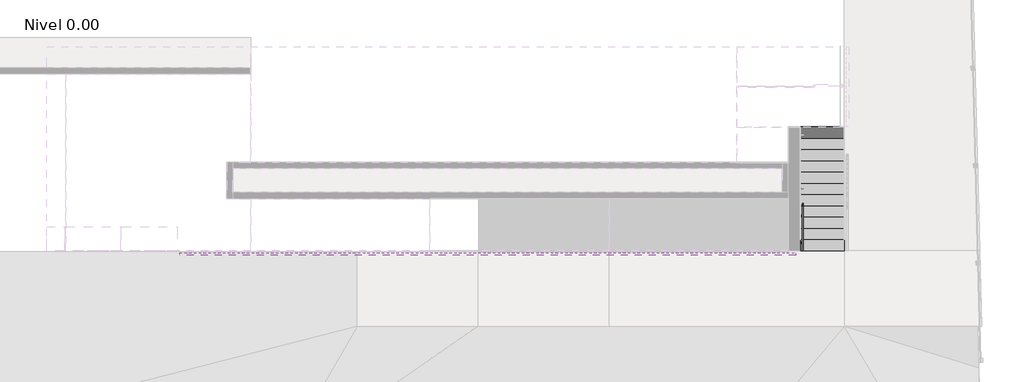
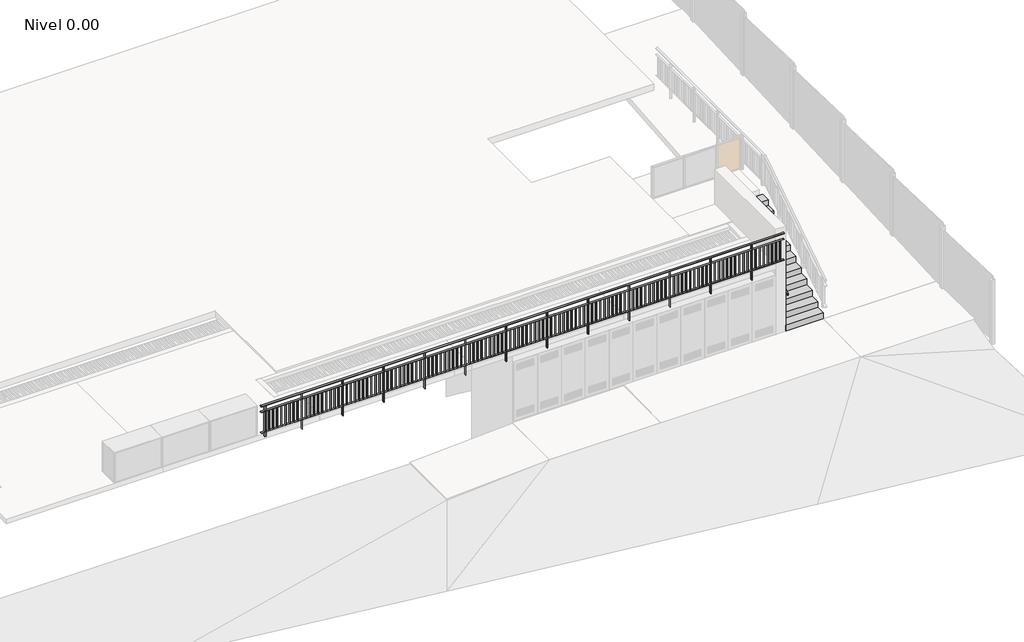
# One storey, part 5 of 10: 3 proxies, 2 railings, 1 stair flight.
"""IFC4 building model written with IfcOpenShell, lengths in millimetres."""

from ifc_helpers import new_model, si_unit, point, frame, frame_2d, origin, place, context, project, spatial, polyline, circle_curve, ellipse_curve, trimmed, segment, composite_curve, outline, extrude, faceted_brep, transform, mapped, element, save
from ifc_brep_helpers import plane_surface, cylinder_surface, advanced_brep
from components import m_support_metal_circular_m_support_metal_circular_0da74429

model = new_model("IFC4")

# Units and contexts
model_context = context("Model", 3, world=origin())
ifc_project = project(units=[si_unit("LENGTHUNIT", "METRE", prefix="MILLI")], contexts=[model_context])

# Site, building, storey
site = spatial("IfcSite", under=ifc_project)
building = spatial("IfcBuilding", under=site)
storey = spatial("IfcBuildingStorey", under=building, Name="Nivel 0.00", Elevation=0.0)

# Proxies
placement = place(None, origin())
m_support_metal_circular_m_support_metal_circular_shape = m_support_metal_circular_m_support_metal_circular_0da74429(model_context)
element("IfcBuildingElementProxy", 1, Name="M_Support - Metal - Circular : M_Support - Metal - Circular", ObjectType="M_Support - Metal - Circular : M_Support - Metal - Circular", at=placement, inside=storey, context=model_context, shape_type="MappedRepresentation", body=[
    mapped(m_support_metal_circular_m_support_metal_circular_shape, transform((16970.5253342, -15451.2141003, 569.975585), x_axis=(0.0, 1.0, 0.0), y_axis=(-1.0, 0.0, 0.0), z_axis=(0.0, 0.0, 1.0))),
])
element("IfcBuildingElementProxy", 2, Name="M_Support - Metal - Circular : M_Support - Metal - Circular", ObjectType="M_Support - Metal - Circular : M_Support - Metal - Circular", at=placement, inside=storey, context=model_context, shape_type="MappedRepresentation", body=[
    mapped(m_support_metal_circular_m_support_metal_circular_shape, transform((16970.5253342, -14780.0943676, 1005.4044592), x_axis=(0.0, 1.0, 0.0), y_axis=(-1.0, 0.0, 0.0), z_axis=(0.0, 0.0, 1.0))),
])
element("IfcBuildingElementProxy", 3, Name="M_Support - Metal - Circular : M_Support - Metal - Circular", ObjectType="M_Support - Metal - Circular : M_Support - Metal - Circular", at=placement, inside=storey, context=model_context, shape_type="MappedRepresentation", body=[
    mapped(m_support_metal_circular_m_support_metal_circular_shape, transform((16970.5253342, -14108.974635, 1440.8333333), x_axis=(0.0, 1.0, 0.0), y_axis=(-1.0, 0.0, 0.0), z_axis=(0.0, 0.0, 1.0))),
])

# Railings
element("IfcRailing", 4, ObjectType="BARANDA_RAMPA_1000mm", at=placement, inside=storey, context=model_context, shape_type="SweptSolid", body=[
    extrude(outline(composite_curve([segment(trimmed(circle_curve(frame_2d((-15733.079504, 2475.0)), 25.0), [point((-15758.079504, 2475.0))], [point((-15708.079504, 2475.0))], False, "CARTESIAN"), True, "CONTINUOUS"), segment(trimmed(circle_curve(frame_2d((-15733.079504, 2475.0)), 25.0), [point((-15708.079504, 2475.0))], [point((-15758.079504, 2475.0))], False, "CARTESIAN"), True, "CONTINUOUS")], self_intersect=False)), frame((1457.4790965, 0.0, 0.0), z_axis=(1.0, 0.0, 0.0), x_axis=(0.0, 1.0, 0.0)), (0.0, 0.0, 1.0), 15340.0),
    extrude(outline(polyline([(1457.4790965, -15753.079504), (1457.4790965, -15703.079504), (16797.4790965, -15703.079504), (16797.4790965, -15753.079504), (1457.4790965, -15753.079504)])), frame((0.0, 0.0, 2288.0), z_axis=(0.0, 0.0, 1.0), x_axis=(1.0, 0.0, 0.0)), (0.0, 0.0, 1.0), 12.0),
    extrude(outline(polyline([(1457.4790965, -15753.079504), (1457.4790965, -15703.079504), (16797.4790965, -15703.079504), (16797.4790965, -15753.079504), (1457.4790965, -15753.079504)])), frame((0.0, 0.0, 1638.0), z_axis=(0.0, 0.0, 1.0), x_axis=(1.0, 0.0, 0.0)), (0.0, 0.0, 1.0), 12.0),
    extrude(outline(polyline([(16691.4790965, -15753.079504), (16691.4790965, -15703.079504), (16703.4790965, -15703.079504), (16703.4790965, -15753.079504), (16691.4790965, -15753.079504)])), frame((0.0, 0.0, 1650.0), z_axis=(0.0, 0.0, 1.0), x_axis=(1.0, 0.0, 0.0)), (0.0, 0.0, 1.0), 638.0),
    extrude(outline(polyline([(16571.4790965, -15753.079504), (16571.4790965, -15703.079504), (16583.4790965, -15703.079504), (16583.4790965, -15753.079504), (16571.4790965, -15753.079504)])), frame((0.0, 0.0, 1650.0), z_axis=(0.0, 0.0, 1.0), x_axis=(1.0, 0.0, 0.0)), (0.0, 0.0, 1.0), 638.0),
    extrude(outline(polyline([(16451.4790965, -15753.079504), (16451.4790965, -15703.079504), (16463.4790965, -15703.079504), (16463.4790965, -15753.079504), (16451.4790965, -15753.079504)])), frame((0.0, 0.0, 1650.0), z_axis=(0.0, 0.0, 1.0), x_axis=(1.0, 0.0, 0.0)), (0.0, 0.0, 1.0), 638.0),
    extrude(outline(polyline([(16331.4790965, -15753.079504), (16331.4790965, -15703.079504), (16343.4790965, -15703.079504), (16343.4790965, -15753.079504), (16331.4790965, -15753.079504)])), frame((0.0, 0.0, 1650.0), z_axis=(0.0, 0.0, 1.0), x_axis=(1.0, 0.0, 0.0)), (0.0, 0.0, 1.0), 638.0),
    extrude(outline(polyline([(16211.4790965, -15753.079504), (16211.4790965, -15703.079504), (16223.4790965, -15703.079504), (16223.4790965, -15753.079504), (16211.4790965, -15753.079504)])), frame((0.0, 0.0, 1650.0), z_axis=(0.0, 0.0, 1.0), x_axis=(1.0, 0.0, 0.0)), (0.0, 0.0, 1.0), 638.0),
    extrude(outline(polyline([(16091.4790965, -15753.079504), (16091.4790965, -15703.079504), (16103.4790965, -15703.079504), (16103.4790965, -15753.079504), (16091.4790965, -15753.079504)])), frame((0.0, 0.0, 1650.0), z_axis=(0.0, 0.0, 1.0), x_axis=(1.0, 0.0, 0.0)), (0.0, 0.0, 1.0), 638.0),
    extrude(outline(polyline([(15971.4790965, -15753.079504), (15971.4790965, -15703.079504), (15983.4790965, -15703.079504), (15983.4790965, -15753.079504), (15971.4790965, -15753.079504)])), frame((0.0, 0.0, 1650.0), z_axis=(0.0, 0.0, 1.0), x_axis=(1.0, 0.0, 0.0)), (0.0, 0.0, 1.0), 638.0),
    extrude(outline(polyline([(15851.4790965, -15753.079504), (15851.4790965, -15703.079504), (15863.4790965, -15703.079504), (15863.4790965, -15753.079504), (15851.4790965, -15753.079504)])), frame((0.0, 0.0, 1350.0), z_axis=(0.0, 0.0, 1.0), x_axis=(1.0, 0.0, 0.0)), (0.0, 0.0, 1.0), 1100.0),
    extrude(outline(polyline([(15731.4790965, -15753.079504), (15731.4790965, -15703.079504), (15743.4790965, -15703.079504), (15743.4790965, -15753.079504), (15731.4790965, -15753.079504)])), frame((0.0, 0.0, 1650.0), z_axis=(0.0, 0.0, 1.0), x_axis=(1.0, 0.0, 0.0)), (0.0, 0.0, 1.0), 638.0),
    extrude(outline(polyline([(15611.4790965, -15753.079504), (15611.4790965, -15703.079504), (15623.4790965, -15703.079504), (15623.4790965, -15753.079504), (15611.4790965, -15753.079504)])), frame((0.0, 0.0, 1650.0), z_axis=(0.0, 0.0, 1.0), x_axis=(1.0, 0.0, 0.0)), (0.0, 0.0, 1.0), 638.0),
    extrude(outline(polyline([(15491.4790965, -15753.079504), (15491.4790965, -15703.079504), (15503.4790965, -15703.079504), (15503.4790965, -15753.079504), (15491.4790965, -15753.079504)])), frame((0.0, 0.0, 1650.0), z_axis=(0.0, 0.0, 1.0), x_axis=(1.0, 0.0, 0.0)), (0.0, 0.0, 1.0), 638.0),
    extrude(outline(polyline([(15371.4790965, -15753.079504), (15371.4790965, -15703.079504), (15383.4790965, -15703.079504), (15383.4790965, -15753.079504), (15371.4790965, -15753.079504)])), frame((0.0, 0.0, 1650.0), z_axis=(0.0, 0.0, 1.0), x_axis=(1.0, 0.0, 0.0)), (0.0, 0.0, 1.0), 638.0),
    extrude(outline(polyline([(15251.4790965, -15753.079504), (15251.4790965, -15703.079504), (15263.4790965, -15703.079504), (15263.4790965, -15753.079504), (15251.4790965, -15753.079504)])), frame((0.0, 0.0, 1650.0), z_axis=(0.0, 0.0, 1.0), x_axis=(1.0, 0.0, 0.0)), (0.0, 0.0, 1.0), 638.0),
    extrude(outline(polyline([(15131.4790965, -15753.079504), (15131.4790965, -15703.079504), (15143.4790965, -15703.079504), (15143.4790965, -15753.079504), (15131.4790965, -15753.079504)])), frame((0.0, 0.0, 1650.0), z_axis=(0.0, 0.0, 1.0), x_axis=(1.0, 0.0, 0.0)), (0.0, 0.0, 1.0), 638.0),
    extrude(outline(polyline([(15011.4790965, -15753.079504), (15011.4790965, -15703.079504), (15023.4790965, -15703.079504), (15023.4790965, -15753.079504), (15011.4790965, -15753.079504)])), frame((0.0, 0.0, 1650.0), z_axis=(0.0, 0.0, 1.0), x_axis=(1.0, 0.0, 0.0)), (0.0, 0.0, 1.0), 638.0),
    extrude(outline(polyline([(14891.4790965, -15753.079504), (14891.4790965, -15703.079504), (14903.4790965, -15703.079504), (14903.4790965, -15753.079504), (14891.4790965, -15753.079504)])), frame((0.0, 0.0, 1650.0), z_axis=(0.0, 0.0, 1.0), x_axis=(1.0, 0.0, 0.0)), (0.0, 0.0, 1.0), 638.0),
    extrude(outline(polyline([(14771.4790965, -15753.079504), (14771.4790965, -15703.079504), (14783.4790965, -15703.079504), (14783.4790965, -15753.079504), (14771.4790965, -15753.079504)])), frame((0.0, 0.0, 1650.0), z_axis=(0.0, 0.0, 1.0), x_axis=(1.0, 0.0, 0.0)), (0.0, 0.0, 1.0), 638.0),
    extrude(outline(polyline([(14651.4790965, -15753.079504), (14651.4790965, -15703.079504), (14663.4790965, -15703.079504), (14663.4790965, -15753.079504), (14651.4790965, -15753.079504)])), frame((0.0, 0.0, 1350.0), z_axis=(0.0, 0.0, 1.0), x_axis=(1.0, 0.0, 0.0)), (0.0, 0.0, 1.0), 1100.0),
    extrude(outline(polyline([(14531.4790965, -15753.079504), (14531.4790965, -15703.079504), (14543.4790965, -15703.079504), (14543.4790965, -15753.079504), (14531.4790965, -15753.079504)])), frame((0.0, 0.0, 1650.0), z_axis=(0.0, 0.0, 1.0), x_axis=(1.0, 0.0, 0.0)), (0.0, 0.0, 1.0), 638.0),
    extrude(outline(polyline([(14411.4790965, -15753.079504), (14411.4790965, -15703.079504), (14423.4790965, -15703.079504), (14423.4790965, -15753.079504), (14411.4790965, -15753.079504)])), frame((0.0, 0.0, 1650.0), z_axis=(0.0, 0.0, 1.0), x_axis=(1.0, 0.0, 0.0)), (0.0, 0.0, 1.0), 638.0),
    extrude(outline(polyline([(14291.4790965, -15753.079504), (14291.4790965, -15703.079504), (14303.4790965, -15703.079504), (14303.4790965, -15753.079504), (14291.4790965, -15753.079504)])), frame((0.0, 0.0, 1650.0), z_axis=(0.0, 0.0, 1.0), x_axis=(1.0, 0.0, 0.0)), (0.0, 0.0, 1.0), 638.0),
    extrude(outline(polyline([(14171.4790965, -15753.079504), (14171.4790965, -15703.079504), (14183.4790965, -15703.079504), (14183.4790965, -15753.079504), (14171.4790965, -15753.079504)])), frame((0.0, 0.0, 1650.0), z_axis=(0.0, 0.0, 1.0), x_axis=(1.0, 0.0, 0.0)), (0.0, 0.0, 1.0), 638.0),
    extrude(outline(polyline([(14051.4790965, -15753.079504), (14051.4790965, -15703.079504), (14063.4790965, -15703.079504), (14063.4790965, -15753.079504), (14051.4790965, -15753.079504)])), frame((0.0, 0.0, 1650.0), z_axis=(0.0, 0.0, 1.0), x_axis=(1.0, 0.0, 0.0)), (0.0, 0.0, 1.0), 638.0),
    extrude(outline(polyline([(13931.4790965, -15753.079504), (13931.4790965, -15703.079504), (13943.4790965, -15703.079504), (13943.4790965, -15753.079504), (13931.4790965, -15753.079504)])), frame((0.0, 0.0, 1650.0), z_axis=(0.0, 0.0, 1.0), x_axis=(1.0, 0.0, 0.0)), (0.0, 0.0, 1.0), 638.0),
    extrude(outline(polyline([(13811.4790965, -15753.079504), (13811.4790965, -15703.079504), (13823.4790965, -15703.079504), (13823.4790965, -15753.079504), (13811.4790965, -15753.079504)])), frame((0.0, 0.0, 1650.0), z_axis=(0.0, 0.0, 1.0), x_axis=(1.0, 0.0, 0.0)), (0.0, 0.0, 1.0), 638.0),
    extrude(outline(polyline([(13691.4790965, -15753.079504), (13691.4790965, -15703.079504), (13703.4790965, -15703.079504), (13703.4790965, -15753.079504), (13691.4790965, -15753.079504)])), frame((0.0, 0.0, 1650.0), z_axis=(0.0, 0.0, 1.0), x_axis=(1.0, 0.0, 0.0)), (0.0, 0.0, 1.0), 638.0),
    extrude(outline(polyline([(13571.4790965, -15753.079504), (13571.4790965, -15703.079504), (13583.4790965, -15703.079504), (13583.4790965, -15753.079504), (13571.4790965, -15753.079504)])), frame((0.0, 0.0, 1650.0), z_axis=(0.0, 0.0, 1.0), x_axis=(1.0, 0.0, 0.0)), (0.0, 0.0, 1.0), 638.0),
    extrude(outline(polyline([(13451.4790965, -15753.079504), (13451.4790965, -15703.079504), (13463.4790965, -15703.079504), (13463.4790965, -15753.079504), (13451.4790965, -15753.079504)])), frame((0.0, 0.0, 1350.0), z_axis=(0.0, 0.0, 1.0), x_axis=(1.0, 0.0, 0.0)), (0.0, 0.0, 1.0), 1100.0),
    extrude(outline(polyline([(13331.4790965, -15753.079504), (13331.4790965, -15703.079504), (13343.4790965, -15703.079504), (13343.4790965, -15753.079504), (13331.4790965, -15753.079504)])), frame((0.0, 0.0, 1650.0), z_axis=(0.0, 0.0, 1.0), x_axis=(1.0, 0.0, 0.0)), (0.0, 0.0, 1.0), 638.0),
    extrude(outline(polyline([(13211.4790965, -15753.079504), (13211.4790965, -15703.079504), (13223.4790965, -15703.079504), (13223.4790965, -15753.079504), (13211.4790965, -15753.079504)])), frame((0.0, 0.0, 1650.0), z_axis=(0.0, 0.0, 1.0), x_axis=(1.0, 0.0, 0.0)), (0.0, 0.0, 1.0), 638.0),
    extrude(outline(polyline([(13091.4790965, -15753.079504), (13091.4790965, -15703.079504), (13103.4790965, -15703.079504), (13103.4790965, -15753.079504), (13091.4790965, -15753.079504)])), frame((0.0, 0.0, 1650.0), z_axis=(0.0, 0.0, 1.0), x_axis=(1.0, 0.0, 0.0)), (0.0, 0.0, 1.0), 638.0),
    extrude(outline(polyline([(12971.4790965, -15753.079504), (12971.4790965, -15703.079504), (12983.4790965, -15703.079504), (12983.4790965, -15753.079504), (12971.4790965, -15753.079504)])), frame((0.0, 0.0, 1650.0), z_axis=(0.0, 0.0, 1.0), x_axis=(1.0, 0.0, 0.0)), (0.0, 0.0, 1.0), 638.0),
    extrude(outline(polyline([(12851.4790965, -15753.079504), (12851.4790965, -15703.079504), (12863.4790965, -15703.079504), (12863.4790965, -15753.079504), (12851.4790965, -15753.079504)])), frame((0.0, 0.0, 1650.0), z_axis=(0.0, 0.0, 1.0), x_axis=(1.0, 0.0, 0.0)), (0.0, 0.0, 1.0), 638.0),
    extrude(outline(polyline([(12731.4790965, -15753.079504), (12731.4790965, -15703.079504), (12743.4790965, -15703.079504), (12743.4790965, -15753.079504), (12731.4790965, -15753.079504)])), frame((0.0, 0.0, 1650.0), z_axis=(0.0, 0.0, 1.0), x_axis=(1.0, 0.0, 0.0)), (0.0, 0.0, 1.0), 638.0),
    extrude(outline(polyline([(12611.4790965, -15753.079504), (12611.4790965, -15703.079504), (12623.4790965, -15703.079504), (12623.4790965, -15753.079504), (12611.4790965, -15753.079504)])), frame((0.0, 0.0, 1650.0), z_axis=(0.0, 0.0, 1.0), x_axis=(1.0, 0.0, 0.0)), (0.0, 0.0, 1.0), 638.0),
    extrude(outline(polyline([(12491.4790965, -15753.079504), (12491.4790965, -15703.079504), (12503.4790965, -15703.079504), (12503.4790965, -15753.079504), (12491.4790965, -15753.079504)])), frame((0.0, 0.0, 1650.0), z_axis=(0.0, 0.0, 1.0), x_axis=(1.0, 0.0, 0.0)), (0.0, 0.0, 1.0), 638.0),
    extrude(outline(polyline([(12371.4790965, -15753.079504), (12371.4790965, -15703.079504), (12383.4790965, -15703.079504), (12383.4790965, -15753.079504), (12371.4790965, -15753.079504)])), frame((0.0, 0.0, 1650.0), z_axis=(0.0, 0.0, 1.0), x_axis=(1.0, 0.0, 0.0)), (0.0, 0.0, 1.0), 638.0),
    extrude(outline(polyline([(12251.4790965, -15753.079504), (12251.4790965, -15703.079504), (12263.4790965, -15703.079504), (12263.4790965, -15753.079504), (12251.4790965, -15753.079504)])), frame((0.0, 0.0, 1350.0), z_axis=(0.0, 0.0, 1.0), x_axis=(1.0, 0.0, 0.0)), (0.0, 0.0, 1.0), 1100.0),
    extrude(outline(polyline([(12131.4790965, -15753.079504), (12131.4790965, -15703.079504), (12143.4790965, -15703.079504), (12143.4790965, -15753.079504), (12131.4790965, -15753.079504)])), frame((0.0, 0.0, 1650.0), z_axis=(0.0, 0.0, 1.0), x_axis=(1.0, 0.0, 0.0)), (0.0, 0.0, 1.0), 638.0),
    extrude(outline(polyline([(12011.4790965, -15753.079504), (12011.4790965, -15703.079504), (12023.4790965, -15703.079504), (12023.4790965, -15753.079504), (12011.4790965, -15753.079504)])), frame((0.0, 0.0, 1650.0), z_axis=(0.0, 0.0, 1.0), x_axis=(1.0, 0.0, 0.0)), (0.0, 0.0, 1.0), 638.0),
    extrude(outline(polyline([(11891.4790965, -15753.079504), (11891.4790965, -15703.079504), (11903.4790965, -15703.079504), (11903.4790965, -15753.079504), (11891.4790965, -15753.079504)])), frame((0.0, 0.0, 1650.0), z_axis=(0.0, 0.0, 1.0), x_axis=(1.0, 0.0, 0.0)), (0.0, 0.0, 1.0), 638.0),
    extrude(outline(polyline([(11771.4790965, -15753.079504), (11771.4790965, -15703.079504), (11783.4790965, -15703.079504), (11783.4790965, -15753.079504), (11771.4790965, -15753.079504)])), frame((0.0, 0.0, 1650.0), z_axis=(0.0, 0.0, 1.0), x_axis=(1.0, 0.0, 0.0)), (0.0, 0.0, 1.0), 638.0),
    extrude(outline(polyline([(11651.4790965, -15753.079504), (11651.4790965, -15703.079504), (11663.4790965, -15703.079504), (11663.4790965, -15753.079504), (11651.4790965, -15753.079504)])), frame((0.0, 0.0, 1650.0), z_axis=(0.0, 0.0, 1.0), x_axis=(1.0, 0.0, 0.0)), (0.0, 0.0, 1.0), 638.0),
    extrude(outline(polyline([(11531.4790965, -15753.079504), (11531.4790965, -15703.079504), (11543.4790965, -15703.079504), (11543.4790965, -15753.079504), (11531.4790965, -15753.079504)])), frame((0.0, 0.0, 1650.0), z_axis=(0.0, 0.0, 1.0), x_axis=(1.0, 0.0, 0.0)), (0.0, 0.0, 1.0), 638.0),
    extrude(outline(polyline([(11411.4790965, -15753.079504), (11411.4790965, -15703.079504), (11423.4790965, -15703.079504), (11423.4790965, -15753.079504), (11411.4790965, -15753.079504)])), frame((0.0, 0.0, 1650.0), z_axis=(0.0, 0.0, 1.0), x_axis=(1.0, 0.0, 0.0)), (0.0, 0.0, 1.0), 638.0),
    extrude(outline(polyline([(11291.4790965, -15753.079504), (11291.4790965, -15703.079504), (11303.4790965, -15703.079504), (11303.4790965, -15753.079504), (11291.4790965, -15753.079504)])), frame((0.0, 0.0, 1650.0), z_axis=(0.0, 0.0, 1.0), x_axis=(1.0, 0.0, 0.0)), (0.0, 0.0, 1.0), 638.0),
    extrude(outline(polyline([(11171.4790965, -15753.079504), (11171.4790965, -15703.079504), (11183.4790965, -15703.079504), (11183.4790965, -15753.079504), (11171.4790965, -15753.079504)])), frame((0.0, 0.0, 1650.0), z_axis=(0.0, 0.0, 1.0), x_axis=(1.0, 0.0, 0.0)), (0.0, 0.0, 1.0), 638.0),
    extrude(outline(polyline([(11051.4790965, -15753.079504), (11051.4790965, -15703.079504), (11063.4790965, -15703.079504), (11063.4790965, -15753.079504), (11051.4790965, -15753.079504)])), frame((0.0, 0.0, 1350.0), z_axis=(0.0, 0.0, 1.0), x_axis=(1.0, 0.0, 0.0)), (0.0, 0.0, 1.0), 1100.0),
    extrude(outline(polyline([(10931.4790965, -15753.079504), (10931.4790965, -15703.079504), (10943.4790965, -15703.079504), (10943.4790965, -15753.079504), (10931.4790965, -15753.079504)])), frame((0.0, 0.0, 1650.0), z_axis=(0.0, 0.0, 1.0), x_axis=(1.0, 0.0, 0.0)), (0.0, 0.0, 1.0), 638.0),
    extrude(outline(polyline([(10811.4790965, -15753.079504), (10811.4790965, -15703.079504), (10823.4790965, -15703.079504), (10823.4790965, -15753.079504), (10811.4790965, -15753.079504)])), frame((0.0, 0.0, 1650.0), z_axis=(0.0, 0.0, 1.0), x_axis=(1.0, 0.0, 0.0)), (0.0, 0.0, 1.0), 638.0),
    extrude(outline(polyline([(10691.4790965, -15753.079504), (10691.4790965, -15703.079504), (10703.4790965, -15703.079504), (10703.4790965, -15753.079504), (10691.4790965, -15753.079504)])), frame((0.0, 0.0, 1650.0), z_axis=(0.0, 0.0, 1.0), x_axis=(1.0, 0.0, 0.0)), (0.0, 0.0, 1.0), 638.0),
    extrude(outline(polyline([(10571.4790965, -15753.079504), (10571.4790965, -15703.079504), (10583.4790965, -15703.079504), (10583.4790965, -15753.079504), (10571.4790965, -15753.079504)])), frame((0.0, 0.0, 1650.0), z_axis=(0.0, 0.0, 1.0), x_axis=(1.0, 0.0, 0.0)), (0.0, 0.0, 1.0), 638.0),
    extrude(outline(polyline([(10451.4790965, -15753.079504), (10451.4790965, -15703.079504), (10463.4790965, -15703.079504), (10463.4790965, -15753.079504), (10451.4790965, -15753.079504)])), frame((0.0, 0.0, 1650.0), z_axis=(0.0, 0.0, 1.0), x_axis=(1.0, 0.0, 0.0)), (0.0, 0.0, 1.0), 638.0),
    extrude(outline(polyline([(10331.4790965, -15753.079504), (10331.4790965, -15703.079504), (10343.4790965, -15703.079504), (10343.4790965, -15753.079504), (10331.4790965, -15753.079504)])), frame((0.0, 0.0, 1650.0), z_axis=(0.0, 0.0, 1.0), x_axis=(1.0, 0.0, 0.0)), (0.0, 0.0, 1.0), 638.0),
    extrude(outline(polyline([(10211.4790965, -15753.079504), (10211.4790965, -15703.079504), (10223.4790965, -15703.079504), (10223.4790965, -15753.079504), (10211.4790965, -15753.079504)])), frame((0.0, 0.0, 1650.0), z_axis=(0.0, 0.0, 1.0), x_axis=(1.0, 0.0, 0.0)), (0.0, 0.0, 1.0), 638.0),
    extrude(outline(polyline([(10091.4790965, -15753.079504), (10091.4790965, -15703.079504), (10103.4790965, -15703.079504), (10103.4790965, -15753.079504), (10091.4790965, -15753.079504)])), frame((0.0, 0.0, 1650.0), z_axis=(0.0, 0.0, 1.0), x_axis=(1.0, 0.0, 0.0)), (0.0, 0.0, 1.0), 638.0),
    extrude(outline(polyline([(9971.4790965, -15753.079504), (9971.4790965, -15703.079504), (9983.4790965, -15703.079504), (9983.4790965, -15753.079504), (9971.4790965, -15753.079504)])), frame((0.0, 0.0, 1650.0), z_axis=(0.0, 0.0, 1.0), x_axis=(1.0, 0.0, 0.0)), (0.0, 0.0, 1.0), 638.0),
    extrude(outline(polyline([(9851.4790965, -15753.079504), (9851.4790965, -15703.079504), (9863.4790965, -15703.079504), (9863.4790965, -15753.079504), (9851.4790965, -15753.079504)])), frame((0.0, 0.0, 1350.0), z_axis=(0.0, 0.0, 1.0), x_axis=(1.0, 0.0, 0.0)), (0.0, 0.0, 1.0), 1100.0),
    extrude(outline(polyline([(9731.4790965, -15753.079504), (9731.4790965, -15703.079504), (9743.4790965, -15703.079504), (9743.4790965, -15753.079504), (9731.4790965, -15753.079504)])), frame((0.0, 0.0, 1650.0), z_axis=(0.0, 0.0, 1.0), x_axis=(1.0, 0.0, 0.0)), (0.0, 0.0, 1.0), 638.0),
    extrude(outline(polyline([(9611.4790965, -15753.079504), (9611.4790965, -15703.079504), (9623.4790965, -15703.079504), (9623.4790965, -15753.079504), (9611.4790965, -15753.079504)])), frame((0.0, 0.0, 1650.0), z_axis=(0.0, 0.0, 1.0), x_axis=(1.0, 0.0, 0.0)), (0.0, 0.0, 1.0), 638.0),
    extrude(outline(polyline([(9491.4790965, -15753.079504), (9491.4790965, -15703.079504), (9503.4790965, -15703.079504), (9503.4790965, -15753.079504), (9491.4790965, -15753.079504)])), frame((0.0, 0.0, 1650.0), z_axis=(0.0, 0.0, 1.0), x_axis=(1.0, 0.0, 0.0)), (0.0, 0.0, 1.0), 638.0),
    extrude(outline(polyline([(9371.4790965, -15753.079504), (9371.4790965, -15703.079504), (9383.4790965, -15703.079504), (9383.4790965, -15753.079504), (9371.4790965, -15753.079504)])), frame((0.0, 0.0, 1650.0), z_axis=(0.0, 0.0, 1.0), x_axis=(1.0, 0.0, 0.0)), (0.0, 0.0, 1.0), 638.0),
    extrude(outline(polyline([(9251.4790965, -15753.079504), (9251.4790965, -15703.079504), (9263.4790965, -15703.079504), (9263.4790965, -15753.079504), (9251.4790965, -15753.079504)])), frame((0.0, 0.0, 1650.0), z_axis=(0.0, 0.0, 1.0), x_axis=(1.0, 0.0, 0.0)), (0.0, 0.0, 1.0), 638.0),
    extrude(outline(polyline([(9131.4790965, -15753.079504), (9131.4790965, -15703.079504), (9143.4790965, -15703.079504), (9143.4790965, -15753.079504), (9131.4790965, -15753.079504)])), frame((0.0, 0.0, 1650.0), z_axis=(0.0, 0.0, 1.0), x_axis=(1.0, 0.0, 0.0)), (0.0, 0.0, 1.0), 638.0),
    extrude(outline(polyline([(9011.4790965, -15753.079504), (9011.4790965, -15703.079504), (9023.4790965, -15703.079504), (9023.4790965, -15753.079504), (9011.4790965, -15753.079504)])), frame((0.0, 0.0, 1650.0), z_axis=(0.0, 0.0, 1.0), x_axis=(1.0, 0.0, 0.0)), (0.0, 0.0, 1.0), 638.0),
    extrude(outline(polyline([(8891.4790965, -15753.079504), (8891.4790965, -15703.079504), (8903.4790965, -15703.079504), (8903.4790965, -15753.079504), (8891.4790965, -15753.079504)])), frame((0.0, 0.0, 1650.0), z_axis=(0.0, 0.0, 1.0), x_axis=(1.0, 0.0, 0.0)), (0.0, 0.0, 1.0), 638.0),
    extrude(outline(polyline([(8771.4790965, -15753.079504), (8771.4790965, -15703.079504), (8783.4790965, -15703.079504), (8783.4790965, -15753.079504), (8771.4790965, -15753.079504)])), frame((0.0, 0.0, 1650.0), z_axis=(0.0, 0.0, 1.0), x_axis=(1.0, 0.0, 0.0)), (0.0, 0.0, 1.0), 638.0),
    extrude(outline(polyline([(8651.4790965, -15753.079504), (8651.4790965, -15703.079504), (8663.4790965, -15703.079504), (8663.4790965, -15753.079504), (8651.4790965, -15753.079504)])), frame((0.0, 0.0, 1350.0), z_axis=(0.0, 0.0, 1.0), x_axis=(1.0, 0.0, 0.0)), (0.0, 0.0, 1.0), 1100.0),
    extrude(outline(polyline([(8531.4790965, -15753.079504), (8531.4790965, -15703.079504), (8543.4790965, -15703.079504), (8543.4790965, -15753.079504), (8531.4790965, -15753.079504)])), frame((0.0, 0.0, 1650.0), z_axis=(0.0, 0.0, 1.0), x_axis=(1.0, 0.0, 0.0)), (0.0, 0.0, 1.0), 638.0),
    extrude(outline(polyline([(8411.4790965, -15753.079504), (8411.4790965, -15703.079504), (8423.4790965, -15703.079504), (8423.4790965, -15753.079504), (8411.4790965, -15753.079504)])), frame((0.0, 0.0, 1650.0), z_axis=(0.0, 0.0, 1.0), x_axis=(1.0, 0.0, 0.0)), (0.0, 0.0, 1.0), 638.0),
    extrude(outline(polyline([(8291.4790965, -15753.079504), (8291.4790965, -15703.079504), (8303.4790965, -15703.079504), (8303.4790965, -15753.079504), (8291.4790965, -15753.079504)])), frame((0.0, 0.0, 1650.0), z_axis=(0.0, 0.0, 1.0), x_axis=(1.0, 0.0, 0.0)), (0.0, 0.0, 1.0), 638.0),
    extrude(outline(polyline([(8171.4790965, -15753.079504), (8171.4790965, -15703.079504), (8183.4790965, -15703.079504), (8183.4790965, -15753.079504), (8171.4790965, -15753.079504)])), frame((0.0, 0.0, 1650.0), z_axis=(0.0, 0.0, 1.0), x_axis=(1.0, 0.0, 0.0)), (0.0, 0.0, 1.0), 638.0),
    extrude(outline(polyline([(8051.4790965, -15753.079504), (8051.4790965, -15703.079504), (8063.4790965, -15703.079504), (8063.4790965, -15753.079504), (8051.4790965, -15753.079504)])), frame((0.0, 0.0, 1650.0), z_axis=(0.0, 0.0, 1.0), x_axis=(1.0, 0.0, 0.0)), (0.0, 0.0, 1.0), 638.0),
    extrude(outline(polyline([(7931.4790965, -15753.079504), (7931.4790965, -15703.079504), (7943.4790965, -15703.079504), (7943.4790965, -15753.079504), (7931.4790965, -15753.079504)])), frame((0.0, 0.0, 1650.0), z_axis=(0.0, 0.0, 1.0), x_axis=(1.0, 0.0, 0.0)), (0.0, 0.0, 1.0), 638.0),
    extrude(outline(polyline([(7811.4790965, -15753.079504), (7811.4790965, -15703.079504), (7823.4790965, -15703.079504), (7823.4790965, -15753.079504), (7811.4790965, -15753.079504)])), frame((0.0, 0.0, 1650.0), z_axis=(0.0, 0.0, 1.0), x_axis=(1.0, 0.0, 0.0)), (0.0, 0.0, 1.0), 638.0),
    extrude(outline(polyline([(7691.4790965, -15753.079504), (7691.4790965, -15703.079504), (7703.4790965, -15703.079504), (7703.4790965, -15753.079504), (7691.4790965, -15753.079504)])), frame((0.0, 0.0, 1650.0), z_axis=(0.0, 0.0, 1.0), x_axis=(1.0, 0.0, 0.0)), (0.0, 0.0, 1.0), 638.0),
    extrude(outline(polyline([(7571.4790965, -15753.079504), (7571.4790965, -15703.079504), (7583.4790965, -15703.079504), (7583.4790965, -15753.079504), (7571.4790965, -15753.079504)])), frame((0.0, 0.0, 1650.0), z_axis=(0.0, 0.0, 1.0), x_axis=(1.0, 0.0, 0.0)), (0.0, 0.0, 1.0), 638.0),
    extrude(outline(polyline([(7451.4790965, -15753.079504), (7451.4790965, -15703.079504), (7463.4790965, -15703.079504), (7463.4790965, -15753.079504), (7451.4790965, -15753.079504)])), frame((0.0, 0.0, 1350.0), z_axis=(0.0, 0.0, 1.0), x_axis=(1.0, 0.0, 0.0)), (0.0, 0.0, 1.0), 1100.0),
    extrude(outline(polyline([(7331.4790965, -15753.079504), (7331.4790965, -15703.079504), (7343.4790965, -15703.079504), (7343.4790965, -15753.079504), (7331.4790965, -15753.079504)])), frame((0.0, 0.0, 1650.0), z_axis=(0.0, 0.0, 1.0), x_axis=(1.0, 0.0, 0.0)), (0.0, 0.0, 1.0), 638.0),
    extrude(outline(polyline([(7211.4790965, -15753.079504), (7211.4790965, -15703.079504), (7223.4790965, -15703.079504), (7223.4790965, -15753.079504), (7211.4790965, -15753.079504)])), frame((0.0, 0.0, 1650.0), z_axis=(0.0, 0.0, 1.0), x_axis=(1.0, 0.0, 0.0)), (0.0, 0.0, 1.0), 638.0),
    extrude(outline(polyline([(7091.4790965, -15753.079504), (7091.4790965, -15703.079504), (7103.4790965, -15703.079504), (7103.4790965, -15753.079504), (7091.4790965, -15753.079504)])), frame((0.0, 0.0, 1650.0), z_axis=(0.0, 0.0, 1.0), x_axis=(1.0, 0.0, 0.0)), (0.0, 0.0, 1.0), 638.0),
    extrude(outline(polyline([(6971.4790965, -15753.079504), (6971.4790965, -15703.079504), (6983.4790965, -15703.079504), (6983.4790965, -15753.079504), (6971.4790965, -15753.079504)])), frame((0.0, 0.0, 1650.0), z_axis=(0.0, 0.0, 1.0), x_axis=(1.0, 0.0, 0.0)), (0.0, 0.0, 1.0), 638.0),
    extrude(outline(polyline([(6851.4790965, -15753.079504), (6851.4790965, -15703.079504), (6863.4790965, -15703.079504), (6863.4790965, -15753.079504), (6851.4790965, -15753.079504)])), frame((0.0, 0.0, 1650.0), z_axis=(0.0, 0.0, 1.0), x_axis=(1.0, 0.0, 0.0)), (0.0, 0.0, 1.0), 638.0),
    extrude(outline(polyline([(6731.4790965, -15753.079504), (6731.4790965, -15703.079504), (6743.4790965, -15703.079504), (6743.4790965, -15753.079504), (6731.4790965, -15753.079504)])), frame((0.0, 0.0, 1650.0), z_axis=(0.0, 0.0, 1.0), x_axis=(1.0, 0.0, 0.0)), (0.0, 0.0, 1.0), 638.0),
    extrude(outline(polyline([(6611.4790965, -15753.079504), (6611.4790965, -15703.079504), (6623.4790965, -15703.079504), (6623.4790965, -15753.079504), (6611.4790965, -15753.079504)])), frame((0.0, 0.0, 1650.0), z_axis=(0.0, 0.0, 1.0), x_axis=(1.0, 0.0, 0.0)), (0.0, 0.0, 1.0), 638.0),
    extrude(outline(polyline([(6491.4790965, -15753.079504), (6491.4790965, -15703.079504), (6503.4790965, -15703.079504), (6503.4790965, -15753.079504), (6491.4790965, -15753.079504)])), frame((0.0, 0.0, 1650.0), z_axis=(0.0, 0.0, 1.0), x_axis=(1.0, 0.0, 0.0)), (0.0, 0.0, 1.0), 638.0),
    extrude(outline(polyline([(6371.4790965, -15753.079504), (6371.4790965, -15703.079504), (6383.4790965, -15703.079504), (6383.4790965, -15753.079504), (6371.4790965, -15753.079504)])), frame((0.0, 0.0, 1650.0), z_axis=(0.0, 0.0, 1.0), x_axis=(1.0, 0.0, 0.0)), (0.0, 0.0, 1.0), 638.0),
    extrude(outline(polyline([(6251.4790965, -15753.079504), (6251.4790965, -15703.079504), (6263.4790965, -15703.079504), (6263.4790965, -15753.079504), (6251.4790965, -15753.079504)])), frame((0.0, 0.0, 1350.0), z_axis=(0.0, 0.0, 1.0), x_axis=(1.0, 0.0, 0.0)), (0.0, 0.0, 1.0), 1100.0),
    extrude(outline(polyline([(6131.4790965, -15753.079504), (6131.4790965, -15703.079504), (6143.4790965, -15703.079504), (6143.4790965, -15753.079504), (6131.4790965, -15753.079504)])), frame((0.0, 0.0, 1650.0), z_axis=(0.0, 0.0, 1.0), x_axis=(1.0, 0.0, 0.0)), (0.0, 0.0, 1.0), 638.0),
    extrude(outline(polyline([(6011.4790965, -15753.079504), (6011.4790965, -15703.079504), (6023.4790965, -15703.079504), (6023.4790965, -15753.079504), (6011.4790965, -15753.079504)])), frame((0.0, 0.0, 1650.0), z_axis=(0.0, 0.0, 1.0), x_axis=(1.0, 0.0, 0.0)), (0.0, 0.0, 1.0), 638.0),
    extrude(outline(polyline([(5891.4790965, -15753.079504), (5891.4790965, -15703.079504), (5903.4790965, -15703.079504), (5903.4790965, -15753.079504), (5891.4790965, -15753.079504)])), frame((0.0, 0.0, 1650.0), z_axis=(0.0, 0.0, 1.0), x_axis=(1.0, 0.0, 0.0)), (0.0, 0.0, 1.0), 638.0),
    extrude(outline(polyline([(5771.4790965, -15753.079504), (5771.4790965, -15703.079504), (5783.4790965, -15703.079504), (5783.4790965, -15753.079504), (5771.4790965, -15753.079504)])), frame((0.0, 0.0, 1650.0), z_axis=(0.0, 0.0, 1.0), x_axis=(1.0, 0.0, 0.0)), (0.0, 0.0, 1.0), 638.0),
    extrude(outline(polyline([(5651.4790965, -15753.079504), (5651.4790965, -15703.079504), (5663.4790965, -15703.079504), (5663.4790965, -15753.079504), (5651.4790965, -15753.079504)])), frame((0.0, 0.0, 1650.0), z_axis=(0.0, 0.0, 1.0), x_axis=(1.0, 0.0, 0.0)), (0.0, 0.0, 1.0), 638.0),
    extrude(outline(polyline([(5531.4790965, -15753.079504), (5531.4790965, -15703.079504), (5543.4790965, -15703.079504), (5543.4790965, -15753.079504), (5531.4790965, -15753.079504)])), frame((0.0, 0.0, 1650.0), z_axis=(0.0, 0.0, 1.0), x_axis=(1.0, 0.0, 0.0)), (0.0, 0.0, 1.0), 638.0),
    extrude(outline(polyline([(5411.4790965, -15753.079504), (5411.4790965, -15703.079504), (5423.4790965, -15703.079504), (5423.4790965, -15753.079504), (5411.4790965, -15753.079504)])), frame((0.0, 0.0, 1650.0), z_axis=(0.0, 0.0, 1.0), x_axis=(1.0, 0.0, 0.0)), (0.0, 0.0, 1.0), 638.0),
    extrude(outline(polyline([(5291.4790965, -15753.079504), (5291.4790965, -15703.079504), (5303.4790965, -15703.079504), (5303.4790965, -15753.079504), (5291.4790965, -15753.079504)])), frame((0.0, 0.0, 1650.0), z_axis=(0.0, 0.0, 1.0), x_axis=(1.0, 0.0, 0.0)), (0.0, 0.0, 1.0), 638.0),
    extrude(outline(polyline([(5171.4790965, -15753.079504), (5171.4790965, -15703.079504), (5183.4790965, -15703.079504), (5183.4790965, -15753.079504), (5171.4790965, -15753.079504)])), frame((0.0, 0.0, 1650.0), z_axis=(0.0, 0.0, 1.0), x_axis=(1.0, 0.0, 0.0)), (0.0, 0.0, 1.0), 638.0),
    extrude(outline(polyline([(5051.4790965, -15753.079504), (5051.4790965, -15703.079504), (5063.4790965, -15703.079504), (5063.4790965, -15753.079504), (5051.4790965, -15753.079504)])), frame((0.0, 0.0, 1350.0), z_axis=(0.0, 0.0, 1.0), x_axis=(1.0, 0.0, 0.0)), (0.0, 0.0, 1.0), 1100.0),
    extrude(outline(polyline([(4931.4790965, -15753.079504), (4931.4790965, -15703.079504), (4943.4790965, -15703.079504), (4943.4790965, -15753.079504), (4931.4790965, -15753.079504)])), frame((0.0, 0.0, 1650.0), z_axis=(0.0, 0.0, 1.0), x_axis=(1.0, 0.0, 0.0)), (0.0, 0.0, 1.0), 638.0),
    extrude(outline(polyline([(4811.4790965, -15753.079504), (4811.4790965, -15703.079504), (4823.4790965, -15703.079504), (4823.4790965, -15753.079504), (4811.4790965, -15753.079504)])), frame((0.0, 0.0, 1650.0), z_axis=(0.0, 0.0, 1.0), x_axis=(1.0, 0.0, 0.0)), (0.0, 0.0, 1.0), 638.0),
    extrude(outline(polyline([(4691.4790965, -15753.079504), (4691.4790965, -15703.079504), (4703.4790965, -15703.079504), (4703.4790965, -15753.079504), (4691.4790965, -15753.079504)])), frame((0.0, 0.0, 1650.0), z_axis=(0.0, 0.0, 1.0), x_axis=(1.0, 0.0, 0.0)), (0.0, 0.0, 1.0), 638.0),
    extrude(outline(polyline([(4571.4790965, -15753.079504), (4571.4790965, -15703.079504), (4583.4790965, -15703.079504), (4583.4790965, -15753.079504), (4571.4790965, -15753.079504)])), frame((0.0, 0.0, 1650.0), z_axis=(0.0, 0.0, 1.0), x_axis=(1.0, 0.0, 0.0)), (0.0, 0.0, 1.0), 638.0),
    extrude(outline(polyline([(4451.4790965, -15753.079504), (4451.4790965, -15703.079504), (4463.4790965, -15703.079504), (4463.4790965, -15753.079504), (4451.4790965, -15753.079504)])), frame((0.0, 0.0, 1650.0), z_axis=(0.0, 0.0, 1.0), x_axis=(1.0, 0.0, 0.0)), (0.0, 0.0, 1.0), 638.0),
    extrude(outline(polyline([(4331.4790965, -15753.079504), (4331.4790965, -15703.079504), (4343.4790965, -15703.079504), (4343.4790965, -15753.079504), (4331.4790965, -15753.079504)])), frame((0.0, 0.0, 1650.0), z_axis=(0.0, 0.0, 1.0), x_axis=(1.0, 0.0, 0.0)), (0.0, 0.0, 1.0), 638.0),
    extrude(outline(polyline([(4211.4790965, -15753.079504), (4211.4790965, -15703.079504), (4223.4790965, -15703.079504), (4223.4790965, -15753.079504), (4211.4790965, -15753.079504)])), frame((0.0, 0.0, 1650.0), z_axis=(0.0, 0.0, 1.0), x_axis=(1.0, 0.0, 0.0)), (0.0, 0.0, 1.0), 638.0),
    extrude(outline(polyline([(4091.4790965, -15753.079504), (4091.4790965, -15703.079504), (4103.4790965, -15703.079504), (4103.4790965, -15753.079504), (4091.4790965, -15753.079504)])), frame((0.0, 0.0, 1650.0), z_axis=(0.0, 0.0, 1.0), x_axis=(1.0, 0.0, 0.0)), (0.0, 0.0, 1.0), 638.0),
    extrude(outline(polyline([(3971.4790965, -15753.079504), (3971.4790965, -15703.079504), (3983.4790965, -15703.079504), (3983.4790965, -15753.079504), (3971.4790965, -15753.079504)])), frame((0.0, 0.0, 1650.0), z_axis=(0.0, 0.0, 1.0), x_axis=(1.0, 0.0, 0.0)), (0.0, 0.0, 1.0), 638.0),
    extrude(outline(polyline([(3851.4790965, -15753.079504), (3851.4790965, -15703.079504), (3863.4790965, -15703.079504), (3863.4790965, -15753.079504), (3851.4790965, -15753.079504)])), frame((0.0, 0.0, 1350.0), z_axis=(0.0, 0.0, 1.0), x_axis=(1.0, 0.0, 0.0)), (0.0, 0.0, 1.0), 1100.0),
    extrude(outline(polyline([(3731.4790965, -15753.079504), (3731.4790965, -15703.079504), (3743.4790965, -15703.079504), (3743.4790965, -15753.079504), (3731.4790965, -15753.079504)])), frame((0.0, 0.0, 1650.0), z_axis=(0.0, 0.0, 1.0), x_axis=(1.0, 0.0, 0.0)), (0.0, 0.0, 1.0), 638.0),
    extrude(outline(polyline([(3611.4790965, -15753.079504), (3611.4790965, -15703.079504), (3623.4790965, -15703.079504), (3623.4790965, -15753.079504), (3611.4790965, -15753.079504)])), frame((0.0, 0.0, 1650.0), z_axis=(0.0, 0.0, 1.0), x_axis=(1.0, 0.0, 0.0)), (0.0, 0.0, 1.0), 638.0),
    extrude(outline(polyline([(3491.4790965, -15753.079504), (3491.4790965, -15703.079504), (3503.4790965, -15703.079504), (3503.4790965, -15753.079504), (3491.4790965, -15753.079504)])), frame((0.0, 0.0, 1650.0), z_axis=(0.0, 0.0, 1.0), x_axis=(1.0, 0.0, 0.0)), (0.0, 0.0, 1.0), 638.0),
    extrude(outline(polyline([(3371.4790965, -15753.079504), (3371.4790965, -15703.079504), (3383.4790965, -15703.079504), (3383.4790965, -15753.079504), (3371.4790965, -15753.079504)])), frame((0.0, 0.0, 1650.0), z_axis=(0.0, 0.0, 1.0), x_axis=(1.0, 0.0, 0.0)), (0.0, 0.0, 1.0), 638.0),
    extrude(outline(polyline([(3251.4790965, -15753.079504), (3251.4790965, -15703.079504), (3263.4790965, -15703.079504), (3263.4790965, -15753.079504), (3251.4790965, -15753.079504)])), frame((0.0, 0.0, 1650.0), z_axis=(0.0, 0.0, 1.0), x_axis=(1.0, 0.0, 0.0)), (0.0, 0.0, 1.0), 638.0),
    extrude(outline(polyline([(3131.4790965, -15753.079504), (3131.4790965, -15703.079504), (3143.4790965, -15703.079504), (3143.4790965, -15753.079504), (3131.4790965, -15753.079504)])), frame((0.0, 0.0, 1650.0), z_axis=(0.0, 0.0, 1.0), x_axis=(1.0, 0.0, 0.0)), (0.0, 0.0, 1.0), 638.0),
    extrude(outline(polyline([(3011.4790965, -15753.079504), (3011.4790965, -15703.079504), (3023.4790965, -15703.079504), (3023.4790965, -15753.079504), (3011.4790965, -15753.079504)])), frame((0.0, 0.0, 1650.0), z_axis=(0.0, 0.0, 1.0), x_axis=(1.0, 0.0, 0.0)), (0.0, 0.0, 1.0), 638.0),
    extrude(outline(polyline([(2891.4790965, -15753.079504), (2891.4790965, -15703.079504), (2903.4790965, -15703.079504), (2903.4790965, -15753.079504), (2891.4790965, -15753.079504)])), frame((0.0, 0.0, 1650.0), z_axis=(0.0, 0.0, 1.0), x_axis=(1.0, 0.0, 0.0)), (0.0, 0.0, 1.0), 638.0),
    extrude(outline(polyline([(2771.4790965, -15753.079504), (2771.4790965, -15703.079504), (2783.4790965, -15703.079504), (2783.4790965, -15753.079504), (2771.4790965, -15753.079504)])), frame((0.0, 0.0, 1650.0), z_axis=(0.0, 0.0, 1.0), x_axis=(1.0, 0.0, 0.0)), (0.0, 0.0, 1.0), 638.0),
    extrude(outline(polyline([(2651.4790965, -15753.079504), (2651.4790965, -15703.079504), (2663.4790965, -15703.079504), (2663.4790965, -15753.079504), (2651.4790965, -15753.079504)])), frame((0.0, 0.0, 1350.0), z_axis=(0.0, 0.0, 1.0), x_axis=(1.0, 0.0, 0.0)), (0.0, 0.0, 1.0), 1100.0),
    extrude(outline(polyline([(2531.4790965, -15753.079504), (2531.4790965, -15703.079504), (2543.4790965, -15703.079504), (2543.4790965, -15753.079504), (2531.4790965, -15753.079504)])), frame((0.0, 0.0, 1650.0), z_axis=(0.0, 0.0, 1.0), x_axis=(1.0, 0.0, 0.0)), (0.0, 0.0, 1.0), 638.0),
    extrude(outline(polyline([(2411.4790965, -15753.079504), (2411.4790965, -15703.079504), (2423.4790965, -15703.079504), (2423.4790965, -15753.079504), (2411.4790965, -15753.079504)])), frame((0.0, 0.0, 1650.0), z_axis=(0.0, 0.0, 1.0), x_axis=(1.0, 0.0, 0.0)), (0.0, 0.0, 1.0), 638.0),
    extrude(outline(polyline([(2291.4790965, -15753.079504), (2291.4790965, -15703.079504), (2303.4790965, -15703.079504), (2303.4790965, -15753.079504), (2291.4790965, -15753.079504)])), frame((0.0, 0.0, 1650.0), z_axis=(0.0, 0.0, 1.0), x_axis=(1.0, 0.0, 0.0)), (0.0, 0.0, 1.0), 638.0),
    extrude(outline(polyline([(2171.4790965, -15753.079504), (2171.4790965, -15703.079504), (2183.4790965, -15703.079504), (2183.4790965, -15753.079504), (2171.4790965, -15753.079504)])), frame((0.0, 0.0, 1650.0), z_axis=(0.0, 0.0, 1.0), x_axis=(1.0, 0.0, 0.0)), (0.0, 0.0, 1.0), 638.0),
    extrude(outline(polyline([(2051.4790965, -15753.079504), (2051.4790965, -15703.079504), (2063.4790965, -15703.079504), (2063.4790965, -15753.079504), (2051.4790965, -15753.079504)])), frame((0.0, 0.0, 1650.0), z_axis=(0.0, 0.0, 1.0), x_axis=(1.0, 0.0, 0.0)), (0.0, 0.0, 1.0), 638.0),
    extrude(outline(polyline([(1931.4790965, -15753.079504), (1931.4790965, -15703.079504), (1943.4790965, -15703.079504), (1943.4790965, -15753.079504), (1931.4790965, -15753.079504)])), frame((0.0, 0.0, 1650.0), z_axis=(0.0, 0.0, 1.0), x_axis=(1.0, 0.0, 0.0)), (0.0, 0.0, 1.0), 638.0),
    extrude(outline(polyline([(1811.4790965, -15753.079504), (1811.4790965, -15703.079504), (1823.4790965, -15703.079504), (1823.4790965, -15753.079504), (1811.4790965, -15753.079504)])), frame((0.0, 0.0, 1650.0), z_axis=(0.0, 0.0, 1.0), x_axis=(1.0, 0.0, 0.0)), (0.0, 0.0, 1.0), 638.0),
    extrude(outline(polyline([(1691.4790965, -15753.079504), (1691.4790965, -15703.079504), (1703.4790965, -15703.079504), (1703.4790965, -15753.079504), (1691.4790965, -15753.079504)])), frame((0.0, 0.0, 1650.0), z_axis=(0.0, 0.0, 1.0), x_axis=(1.0, 0.0, 0.0)), (0.0, 0.0, 1.0), 638.0),
    extrude(outline(polyline([(1571.4790965, -15753.079504), (1571.4790965, -15703.079504), (1583.4790965, -15703.079504), (1583.4790965, -15753.079504), (1571.4790965, -15753.079504)])), frame((0.0, 0.0, 1650.0), z_axis=(0.0, 0.0, 1.0), x_axis=(1.0, 0.0, 0.0)), (0.0, 0.0, 1.0), 638.0),
    extrude(outline(polyline([(1557.4790965, -15753.079504), (1557.4790965, -15703.079504), (1607.4790965, -15703.079504), (1607.4790965, -15753.079504), (1557.4790965, -15753.079504)])), frame((0.0, 0.0, 1500.0), z_axis=(0.0, 0.0, 1.0), x_axis=(1.0, 0.0, 0.0)), (0.0, 0.0, 1.0), 950.0),
])
element("IfcRailing", 5, ObjectType="BARANDA_ESCALA_EXT_950mm", at=placement, inside=storey, context=model_context, shape_type="AdvancedBrep", body=[
    advanced_brep(
    [(16985.5253342, -15648.974635, 453.7861017), (16955.5253342, -15648.974635, 453.7861017), (16985.5253342, -12568.9746349, 2452.119435), (16955.5253342, -12568.9746349, 2452.119435)],
    [
        (0, 1, ellipse_curve(frame((16970.5253342, -15648.974635, 453.7861017), z_axis=(0.0, -1.0, 0.0), x_axis=(0.0, 0.0, -1.0)), 17.880565, 15.0)),
        (1, 0, ellipse_curve(frame((16970.5253342, -15648.974635, 453.7861017), z_axis=(0.0, -1.0, 0.0), x_axis=(0.0, 0.0, -1.0)), 17.880565, 15.0)),
        (2, 3, ellipse_curve(frame((16970.5253342, -12568.9746349, 2452.119435), z_axis=(0.0, 1.0, 0.0), x_axis=(0.0, 0.0, -1.0)), 17.880565, 15.0)),
        (3, 2, ellipse_curve(frame((16970.5253342, -12568.9746349, 2452.119435), z_axis=(0.0, 1.0, 0.0), x_axis=(0.0, 0.0, -1.0)), 17.880565, 15.0)),
        (0, 2),
        (3, 1),
    ],
    [
        plane_surface(frame((16970.5253342, -15648.974635, 471.6666667), z_axis=(0.0, -1.0, 0.0), x_axis=(0.0, 0.0, 1.0))),
        plane_surface(frame((16970.5253342, -12568.9746349, 2470.0), z_axis=(0.0, 1.0, 0.0), x_axis=(0.0, 0.0, 1.0))),
        cylinder_surface(frame((16970.5253342, -15640.8103436, 459.0831717), z_axis=(0.0, -0.8388996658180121, -0.5442860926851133), x_axis=(-1.0, 0.0, 0.0)), 15.0),
    ],
    [
        (0, [[1, 2]]),
        (1, [[3, 4]]),
        (2, [[-1, 5, -4, 6]]),
        (2, [[-2, -6, -3, -5]]),
    ],
),
])

# Stair flight
element("IfcStairFlight", 6, ObjectType="150mm Depth", at=placement, inside=storey, context=model_context, shape_type="Brep", body=[
    faceted_brep([(16905.5253342, -15368.967186, -478.3333333), (16905.5253342, -15648.974635, -478.3333333), (18005.525633, -15648.974635, -478.3333333), (18005.525633, -15368.967186, -478.3333333), (16905.5253342, -15368.967186, -657.1341503), (16905.5253342, -15373.3842754, -660.0), (16905.5253342, -15648.974635, -660.0), (18005.525633, -15648.974635, -660.0), (18005.525633, -15373.3842754, -660.0), (18005.525633, -15368.967186, -657.1341503), (16905.5253342, -15088.9671861, -296.6666667), (16905.5253342, -15368.967186, -296.6666667), (18005.525633, -15368.967186, -296.6666667), (18005.525633, -15088.9671861, -296.6666667), (16905.5253342, -15088.9671861, -475.4674837), (18005.525633, -15088.9671861, -475.4674837), (16905.5253342, -14808.9671862, -115.0), (16905.5253342, -15088.9671861, -115.0), (18005.525633, -15088.9671861, -115.0), (18005.525633, -14808.9671862, -115.0), (16905.5253342, -14808.9671862, -293.8008171), (18005.525633, -14808.9671862, -293.8008171), (16905.5253342, -14528.9671863, 66.6666667), (16905.5253342, -14808.9671862, 66.6666667), (18005.525633, -14808.9671862, 66.6666667), (18005.525633, -14528.9671863, 66.6666667), (16905.5253342, -14528.9671863, -112.1341505), (18005.525633, -14528.9671863, -112.1341505), (16905.5253342, -12568.9746349, 1338.3333333), (16905.5253342, -12848.9671862, 1338.3333333), (18005.525633, -12848.9671862, 1338.3333333), (18005.525633, -12568.9746349, 1338.3333333), (16905.5253342, -12568.9746349, 1159.5276834), (16905.5253342, -12848.9671862, 977.8658495), (16905.5253342, -12848.9671862, 1156.6666667), (18005.525633, -12848.9671862, 1156.6666667), (18005.525633, -12848.9671862, 977.8658495), (18005.525633, -12568.9746349, 1159.5276834), (16905.5253342, -14248.9671864, 69.5325161), (16905.5253342, -13968.9671864, 251.1991827), (16905.5253342, -13688.967186, 432.8658496), (16905.5253342, -13408.9671861, 614.5325163), (16905.5253342, -13128.9671862, 796.1991829), (18005.525633, -13128.9671862, 796.1991829), (18005.525633, -13408.9671861, 614.5325163), (18005.525633, -13688.967186, 432.8658496), (18005.525633, -13968.9671864, 251.1991827), (18005.525633, -14248.9671864, 69.5325161), (16905.5253342, -14248.9671864, 248.3333333), (16905.5253342, -14528.9671863, 248.3333333), (18005.525633, -14528.9671863, 248.3333333), (18005.525633, -14248.9671864, 248.3333333), (16905.5253342, -13968.9671864, 430.0), (16905.5253342, -14248.9671864, 430.0), (18005.525633, -14248.9671864, 430.0), (18005.525633, -13968.9671864, 430.0), (16905.5253342, -13688.967186, 611.6666667), (16905.5253342, -13968.9671864, 611.6666667), (18005.525633, -13968.9671864, 611.6666667), (18005.525633, -13688.967186, 611.6666667), (16905.5253342, -13408.9671861, 793.3333333), (16905.5253342, -13688.967186, 793.3333333), (18005.525633, -13688.967186, 793.3333333), (18005.525633, -13408.9671861, 793.3333333), (16905.5253342, -13128.9671862, 975.0), (16905.5253342, -13408.9671861, 975.0), (18005.525633, -13408.9671861, 975.0), (18005.525633, -13128.9671862, 975.0), (16905.5253342, -13128.9671862, 1156.6666667), (18005.525633, -13128.9671862, 1156.6666667)], [[[0, 1, 2, 3]], [[1, 0, 4, 5, 6]], [[2, 1, 6, 7]], [[3, 2, 7, 8, 9]], [[10, 11, 12, 13]], [[11, 10, 14, 4, 0]], [[0, 3, 12, 11]], [[13, 12, 3, 9, 15]], [[16, 17, 18, 19]], [[17, 16, 20, 14, 10]], [[10, 13, 18, 17]], [[19, 18, 13, 15, 21]], [[22, 23, 24, 25]], [[23, 22, 26, 20, 16]], [[16, 19, 24, 23]], [[25, 24, 19, 21, 27]], [[28, 29, 30, 31]], [[29, 28, 32, 33, 34]], [[34, 35, 30, 29]], [[31, 30, 35, 36, 37]], [[28, 31, 37, 32]], [[7, 6, 5, 8]], [[8, 5, 4, 14, 20, 26, 38, 39, 40, 41, 42, 33, 32, 37, 36, 43, 44, 45, 46, 47, 27, 21, 15, 9]], [[48, 49, 50, 51]], [[49, 48, 38, 26, 22]], [[22, 25, 50, 49]], [[51, 50, 25, 27, 47]], [[52, 53, 54, 55]], [[53, 52, 39, 38, 48]], [[48, 51, 54, 53]], [[55, 54, 51, 47, 46]], [[56, 57, 58, 59]], [[57, 56, 40, 39, 52]], [[52, 55, 58, 57]], [[59, 58, 55, 46, 45]], [[60, 61, 62, 63]], [[61, 60, 41, 40, 56]], [[56, 59, 62, 61]], [[63, 62, 59, 45, 44]], [[64, 65, 66, 67]], [[65, 64, 42, 41, 60]], [[60, 63, 66, 65]], [[67, 66, 63, 44, 43]], [[34, 68, 69, 35]], [[68, 34, 33, 42, 64]], [[64, 67, 69, 68]], [[35, 69, 67, 43, 36]]]),
])

save(model, "model.ifc")
